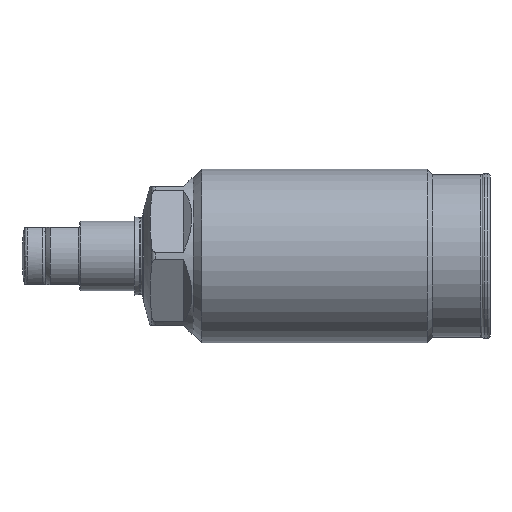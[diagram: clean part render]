
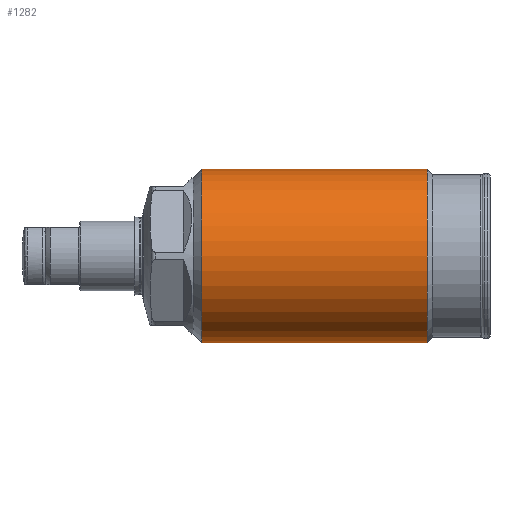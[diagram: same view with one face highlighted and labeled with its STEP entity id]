
A CAD part, left-side view. The second image highlights one B-rep face of the part: STEP entity #1282.
In plain terms, the highlighted cylindrical face has radius 15 mm (diameter 30 mm), a partial arc.
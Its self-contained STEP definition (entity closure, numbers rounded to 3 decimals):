
#961=CYLINDRICAL_SURFACE('',#3596,15.);
#1007=LINE('',#5082,#1102);
#1008=LINE('',#5086,#1103);
#1102=VECTOR('',#4135,1.);
#1103=VECTOR('',#4138,1.);
#1282=ADVANCED_FACE('',(#1499),#961,.T.);
#1499=FACE_OUTER_BOUND('',#1674,.T.);
#1674=EDGE_LOOP('',(#2256,#2257,#2258,#2259));
#2256=ORIENTED_EDGE('',*,*,#2859,.T.);
#2257=ORIENTED_EDGE('',*,*,#2984,.T.);
#2258=ORIENTED_EDGE('',*,*,#2861,.F.);
#2259=ORIENTED_EDGE('',*,*,#2983,.F.);
#2572=VERTEX_POINT('',#5077);
#2573=VERTEX_POINT('',#5079);
#2574=VERTEX_POINT('',#5083);
#2575=VERTEX_POINT('',#5085);
#2859=EDGE_CURVE('',#2574,#2572,#1007,.T.);
#2861=EDGE_CURVE('',#2575,#2573,#1008,.T.);
#2983=EDGE_CURVE('',#2574,#2575,#3244,.T.);
#2984=EDGE_CURVE('',#2572,#2573,#3245,.T.);
#3244=CIRCLE('',#3593,15.);
#3245=CIRCLE('',#3595,15.);
#3593=AXIS2_PLACEMENT_3D('',#5556,#4381,#4382);
#3595=AXIS2_PLACEMENT_3D('',#5558,#4385,#4386);
#3596=AXIS2_PLACEMENT_3D('',#5559,#4387,#4388);
#4135=DIRECTION('',(0.,1.,0.));
#4138=DIRECTION('',(0.,1.,0.));
#4381=DIRECTION('',(0.,-1.,0.));
#4382=DIRECTION('',(0.,0.,-1.));
#4385=DIRECTION('',(0.,-1.,0.));
#4386=DIRECTION('',(0.,0.,-1.));
#4387=DIRECTION('',(0.,-1.,0.));
#4388=DIRECTION('',(0.,0.,1.));
#5077=CARTESIAN_POINT('',(43.752,56.228,15.));
#5079=CARTESIAN_POINT('',(43.752,56.228,-15.));
#5082=CARTESIAN_POINT('',(43.752,2.995,15.));
#5083=CARTESIAN_POINT('',(43.752,17.228,15.));
#5085=CARTESIAN_POINT('',(43.752,17.228,-15.));
#5086=CARTESIAN_POINT('',(43.752,2.995,-15.));
#5556=CARTESIAN_POINT('',(43.752,17.228,0.));
#5558=CARTESIAN_POINT('',(43.752,56.228,0.));
#5559=CARTESIAN_POINT('',(43.752,2.995,0.));
